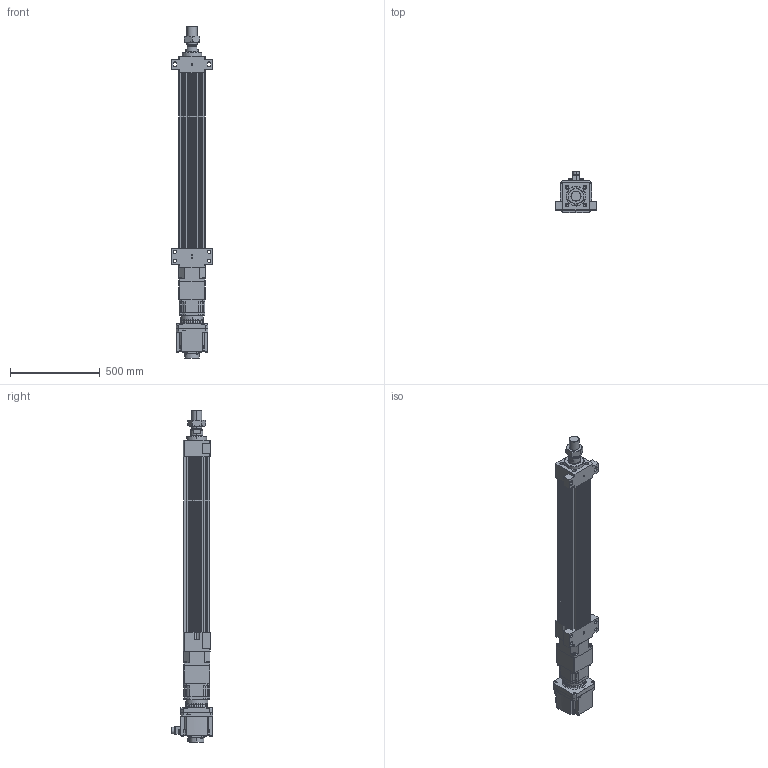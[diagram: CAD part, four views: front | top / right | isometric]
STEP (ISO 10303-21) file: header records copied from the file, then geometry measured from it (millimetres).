
FILE_DESCRIPTION (( 'STEP AP203' ), '1' );
FILE_NAME ('HES150NS(HS)-S700-W035G00-M-FFB.STEP', '2023-02-01T03:22:06', ( 'tms' ), ( '' ), 'SwSTEP 2.0', 'SolidWorks 2013', '' );
FILE_SCHEMA (( 'CONFIG_CONTROL_DESIGN' ));
Length unit declared in the file: millimetre
Products named in the file (9): AB1421; P1301500001; M56X2.0P; HES150-S700-G142-FFB; HES150NS(HS)-S700-W035G00-M-FFB; HES150 ROD M ST700; AB142-003[HG-SR352]; P0403500801; HG-SR352
Assembly tree (8 placements, depth 3):
  HES150NS(HS)-S700-W035G00-M-FFB
    HES150-S700-G142-FFB
    HES150 ROD M ST700
    M56X2.0P
    AB142-003[HG-SR352]
      AB1421
      P1301500001
      P0403500801
    HG-SR352
Bounding box: 230 x 228.85 x 1847.5 mm (x, y, z)
Volume: 20828696.1 mm3; surface area: 2329592.8 mm2
Topology: 5 solids, 23 shells, 1522 faces, 3951 edges, 2569 vertices
Faces by surface type: cylinder 691, plane 599, cone 150, bspline 76, torus 6
Entity records: 55583 total; most frequent: CARTESIAN_POINT 16843, DIRECTION 8091, ORIENTED_EDGE 7808, EDGE_CURVE 3926, AXIS2_PLACEMENT_3D 3042, VERTEX_POINT 2569, VECTOR 2007, LINE 2007
